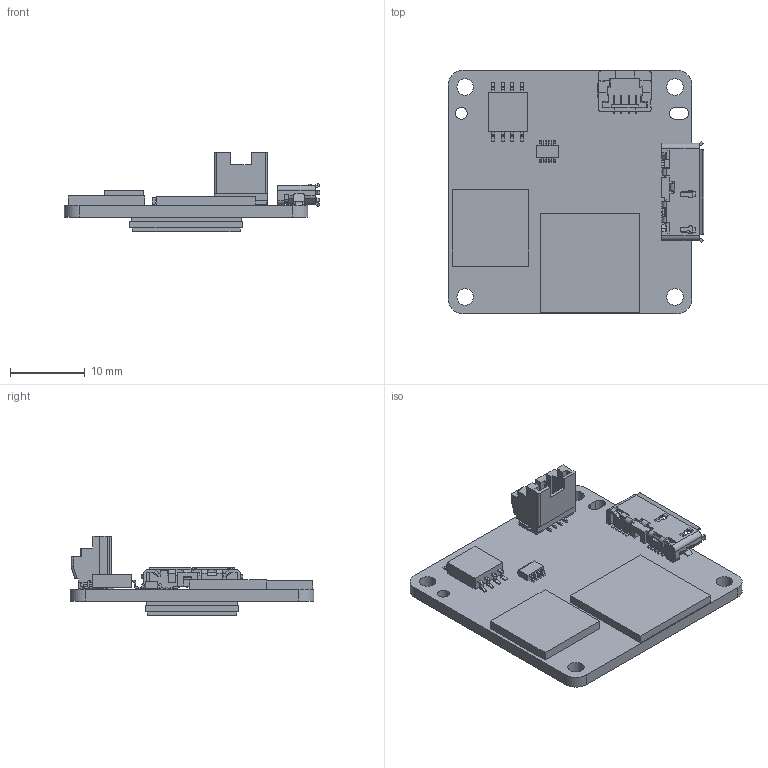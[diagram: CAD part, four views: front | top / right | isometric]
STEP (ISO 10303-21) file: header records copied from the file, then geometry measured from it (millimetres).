
FILE_DESCRIPTION((''),'2;1');
FILE_NAME('12MP_0001','2019-07-12T18:14:21',('wangyijun6'),(''),'CREO PARAMETRIC BY PTC INC, 2017260','CREO PARAMETRIC BY PTC INC, 2017260','');
FILE_SCHEMA(('CONFIG_CONTROL_DESIGN'));
Length unit declared in the file: millimetre
Products named in the file (1): 12MP_0001
Bounding box: 34.07 x 32.5 x 10.6 mm (x, y, z)
Volume: 2494.5 mm3; surface area: 3639.9 mm2
Topology: 2 solids, 3 shells, 989 faces, 3006 edges, 1995 vertices
Faces by surface type: plane 698, cylinder 287, bspline 4
Entity records: 34173 total; most frequent: CARTESIAN_POINT 6766, ORIENTED_EDGE 6004, DIRECTION 5400, EDGE_CURVE 3002, VECTOR 2308, LINE 2308, VERTEX_POINT 1995, AXIS2_PLACEMENT_3D 1546
